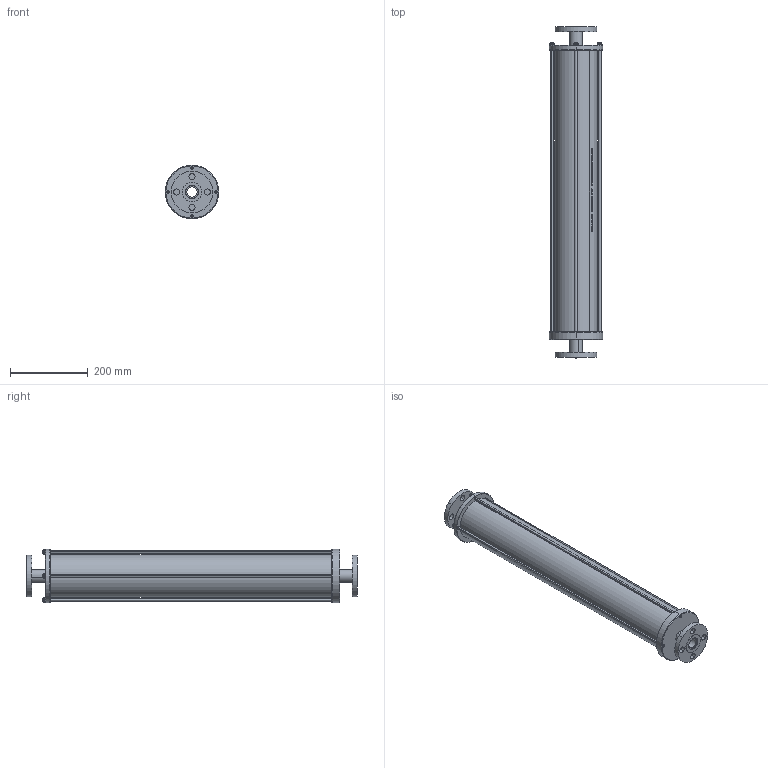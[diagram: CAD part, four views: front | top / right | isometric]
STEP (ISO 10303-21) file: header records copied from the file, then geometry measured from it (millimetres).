
FILE_DESCRIPTION (( 'STEP AP214' ), '1' );
FILE_NAME ('5.0LTR-C-44-34.STEP', '2025-11-05T15:54:44', ( '' ), ( '' ), 'SwSTEP 2.0', 'SolidWorks 2024', '' );
FILE_SCHEMA (( 'AUTOMOTIVE_DESIGN' ));
Length unit declared in the file: millimetre
Products named in the file (1): 5.0LTR-C-44-34
Bounding box: 138 x 856 x 138 mm (x, y, z)
Volume: 1985440.3 mm3; surface area: 731864.8 mm2
Topology: 20 solids, 20 shells, 1522 faces, 3954 edges, 2552 vertices
Faces by surface type: cylinder 540, plane 463, bspline 343, cone 88, sphere 72, torus 16
Entity records: 108936 total; most frequent: CARTESIAN_POINT 59284, ORIENTED_EDGE 7908, DIRECTION 5292, EDGE_CURVE 3954, VERTEX_POINT 2552, LINE 1832, VECTOR 1832, AXIS2_PLACEMENT_3D 1730
